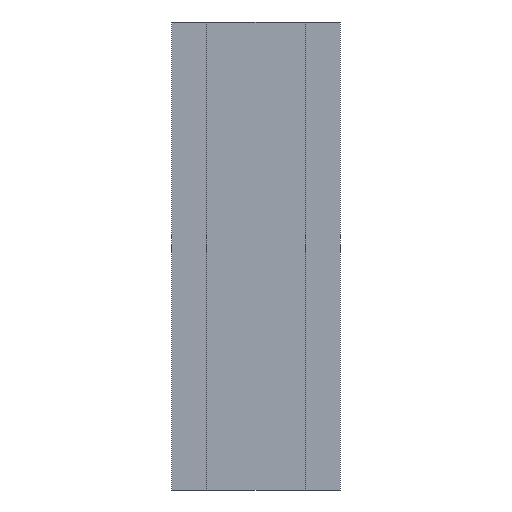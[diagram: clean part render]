
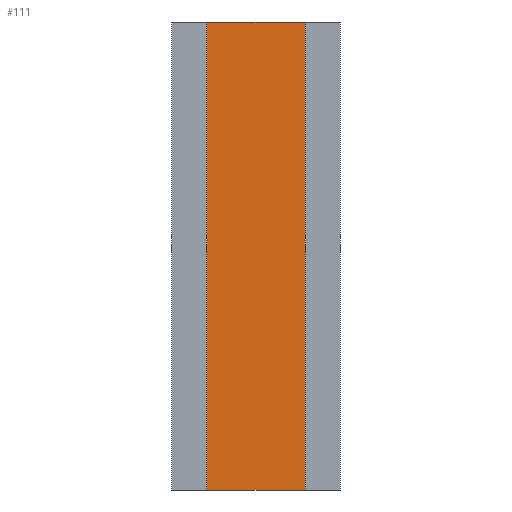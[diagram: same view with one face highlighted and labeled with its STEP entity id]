
A CAD part, front view. The second image highlights one B-rep face of the part: STEP entity #111.
In plain terms, the highlighted planar face has unit normal (0, -1, 0).
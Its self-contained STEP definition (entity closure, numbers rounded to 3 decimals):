
#7 = CARTESIAN_POINT ( 'NONE',  ( 10.5, 0., 100. ) ) ;
#13 = DIRECTION ( 'NONE',  ( 0., 1., 0. ) ) ;
#27 = CARTESIAN_POINT ( 'NONE',  ( -10.5, 0., 0. ) ) ;
#41 = ORIENTED_EDGE ( 'NONE', *, *, #157, .F. ) ;
#58 = DIRECTION ( 'NONE',  ( 1., 0., 0. ) ) ;
#69 = AXIS2_PLACEMENT_3D ( 'NONE', #254, #13, #297 ) ;
#74 = LINE ( 'NONE', #159, #484 ) ;
#87 = VERTEX_POINT ( 'NONE', #364 ) ;
#90 = ORIENTED_EDGE ( 'NONE', *, *, #355, .T. ) ;
#92 = FACE_OUTER_BOUND ( 'NONE', #204, .T. ) ;
#111 = ADVANCED_FACE ( 'NONE', ( #92 ), #479, .F. ) ;
#141 = CARTESIAN_POINT ( 'NONE',  ( 10.5, 0., 100. ) ) ;
#143 = EDGE_CURVE ( 'NONE', #491, #87, #458, .T. ) ;
#157 = EDGE_CURVE ( 'NONE', #218, #87, #468, .T. ) ;
#159 = CARTESIAN_POINT ( 'NONE',  ( -10.5, 0., 100. ) ) ;
#160 = VECTOR ( 'NONE', #194, 1000. ) ;
#172 = DIRECTION ( 'NONE',  ( 0., 0., -1. ) ) ;
#194 = DIRECTION ( 'NONE',  ( 0., 0., -1. ) ) ;
#204 = EDGE_LOOP ( 'NONE', ( #401, #41, #394, #90 ) ) ;
#216 = EDGE_CURVE ( 'NONE', #258, #218, #74, .T. ) ;
#218 = VERTEX_POINT ( 'NONE', #7 ) ;
#254 = CARTESIAN_POINT ( 'NONE',  ( -10.5, 0., 100. ) ) ;
#258 = VERTEX_POINT ( 'NONE', #478 ) ;
#278 = VECTOR ( 'NONE', #172, 1000. ) ;
#297 = DIRECTION ( 'NONE',  ( -1., 0., 0. ) ) ;
#355 = EDGE_CURVE ( 'NONE', #258, #491, #474, .T. ) ;
#359 = VECTOR ( 'NONE', #391, 1000. ) ;
#364 = CARTESIAN_POINT ( 'NONE',  ( 10.5, 0., 0. ) ) ;
#373 = CARTESIAN_POINT ( 'NONE',  ( -10.5, 0., 100. ) ) ;
#391 = DIRECTION ( 'NONE',  ( 1., 0., 0. ) ) ;
#394 = ORIENTED_EDGE ( 'NONE', *, *, #216, .F. ) ;
#401 = ORIENTED_EDGE ( 'NONE', *, *, #143, .T. ) ;
#452 = CARTESIAN_POINT ( 'NONE',  ( -10.5, 0., 0. ) ) ;
#458 = LINE ( 'NONE', #27, #359 ) ;
#468 = LINE ( 'NONE', #141, #160 ) ;
#474 = LINE ( 'NONE', #373, #278 ) ;
#478 = CARTESIAN_POINT ( 'NONE',  ( -10.5, 0., 100. ) ) ;
#479 = PLANE ( 'NONE',  #69 ) ;
#484 = VECTOR ( 'NONE', #58, 1000. ) ;
#491 = VERTEX_POINT ( 'NONE', #452 ) ;
